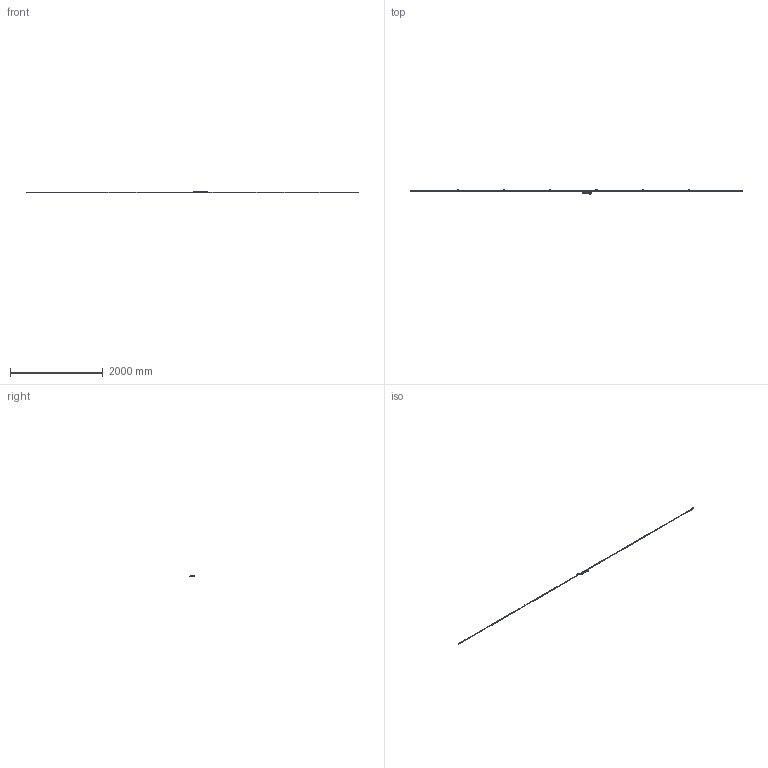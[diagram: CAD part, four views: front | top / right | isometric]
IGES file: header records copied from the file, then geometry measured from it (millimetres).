
Start section: Elysium IGES Interface
Global section: file name: 90H\\Utsu119s\kiyo_cad\data\3D\ABS ST1300\HP掲載用_201803\ST1300-Dタイプ\PKG\ST1300-7000D.igs; native system: Creo Elements/Direct Modeling 18.1B  29-Sep-2012; preprocessor: Creo Element/Direct IGES_3D V2.2; author: Unknown; organization: Unknown; date: 20180301.152404; units: millimetre
Bounding box: 7173 x 88.3 x 30.1 mm (x, y, z)
Volume: 625802.2 mm3; surface area: 392272.6 mm2
Topology: 3 solids, 10 shells, 5431 faces, 14588 edges, 9406 vertices
Faces by surface type: bspline 5431
